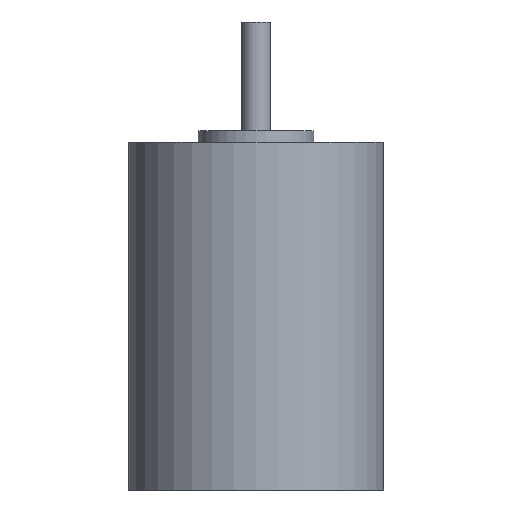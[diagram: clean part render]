
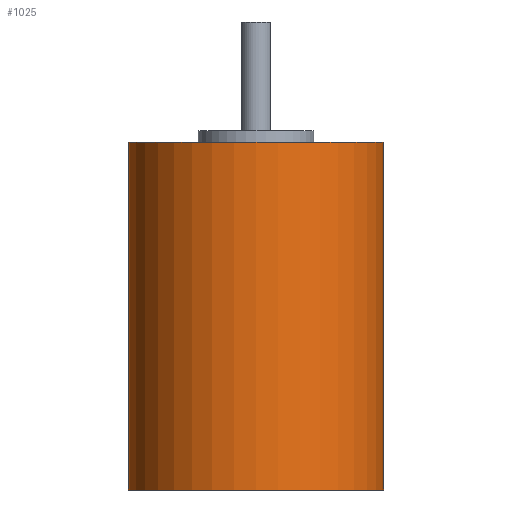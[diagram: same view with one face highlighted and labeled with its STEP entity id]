
A CAD part, front view. The second image highlights one B-rep face of the part: STEP entity #1025.
In plain terms, the highlighted cylindrical face has radius 14 mm (diameter 28 mm), a partial arc.
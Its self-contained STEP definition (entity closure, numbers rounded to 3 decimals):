
#487 = DIRECTION ( 'NONE',  ( 0., 0., 1. ) ) ;
#488 = VECTOR ( 'NONE', #487, 1000. ) ;
#489 = CARTESIAN_POINT ( 'NONE',  ( 14., 0., -38.1 ) ) ;
#490 = LINE ( 'NONE', #489, #488 ) ;
#492 = CARTESIAN_POINT ( 'NONE',  ( 14., 0., 0. ) ) ;
#508 = DIRECTION ( 'NONE',  ( 0., 0., 1. ) ) ;
#509 = VECTOR ( 'NONE', #508, 1000. ) ;
#510 = CARTESIAN_POINT ( 'NONE',  ( -14., 0., -38.1 ) ) ;
#606 = LINE ( 'NONE', #510, #509 ) ;
#1025 = ADVANCED_FACE ( 'NONE', ( #2163 ), #2148, .T. ) ;
#1026 = EDGE_LOOP ( 'NONE', ( #1027, #1028, #1030, #1031 ) ) ;
#1027 = ORIENTED_EDGE ( 'NONE', *, *, #1578, .F. ) ;
#1028 = ORIENTED_EDGE ( 'NONE', *, *, #1029, .T. ) ;
#1029 = EDGE_CURVE ( 'NONE', #1681, #1680, #2197, .T. ) ;
#1030 = ORIENTED_EDGE ( 'NONE', *, *, #1583, .T. ) ;
#1031 = ORIENTED_EDGE ( 'NONE', *, *, #1032, .F. ) ;
#1032 = EDGE_CURVE ( 'NONE', #1682, #1581, #2191, .T. ) ;
#1578 = EDGE_CURVE ( 'NONE', #1681, #1682, #606, .T. ) ;
#1581 = VERTEX_POINT ( 'NONE', #492 ) ;
#1583 = EDGE_CURVE ( 'NONE', #1680, #1581, #490, .T. ) ;
#1680 = VERTEX_POINT ( 'NONE', #3899 ) ;
#1681 = VERTEX_POINT ( 'NONE', #3898 ) ;
#1682 = VERTEX_POINT ( 'NONE', #3897 ) ;
#2144 = DIRECTION ( 'NONE',  ( 1., 0., 0. ) ) ;
#2145 = DIRECTION ( 'NONE',  ( 0., 0., 1. ) ) ;
#2146 = CARTESIAN_POINT ( 'NONE',  ( 0., 0., -38.1 ) ) ;
#2147 = AXIS2_PLACEMENT_3D ( 'NONE', #2146, #2145, #2144 ) ;
#2148 = CYLINDRICAL_SURFACE ( 'NONE', #2147, 14. ) ;
#2163 = FACE_OUTER_BOUND ( 'NONE', #1026, .T. ) ;
#2187 = DIRECTION ( 'NONE',  ( 1., 0., 0. ) ) ;
#2188 = DIRECTION ( 'NONE',  ( 0., 0., 1. ) ) ;
#2189 = CARTESIAN_POINT ( 'NONE',  ( 0., 0., 0. ) ) ;
#2190 = AXIS2_PLACEMENT_3D ( 'NONE', #2189, #2188, #2187 ) ;
#2191 = CIRCLE ( 'NONE', #2190, 14. ) ;
#2193 = DIRECTION ( 'NONE',  ( 1., 0., 0. ) ) ;
#2194 = DIRECTION ( 'NONE',  ( 0., 0., 1. ) ) ;
#2195 = CARTESIAN_POINT ( 'NONE',  ( 0., 0., -38.1 ) ) ;
#2196 = AXIS2_PLACEMENT_3D ( 'NONE', #2195, #2194, #2193 ) ;
#2197 = CIRCLE ( 'NONE', #2196, 14. ) ;
#3897 = CARTESIAN_POINT ( 'NONE',  ( -14., 0., 0. ) ) ;
#3898 = CARTESIAN_POINT ( 'NONE',  ( -14., 0., -38.1 ) ) ;
#3899 = CARTESIAN_POINT ( 'NONE',  ( 14., 0., -38.1 ) ) ;
